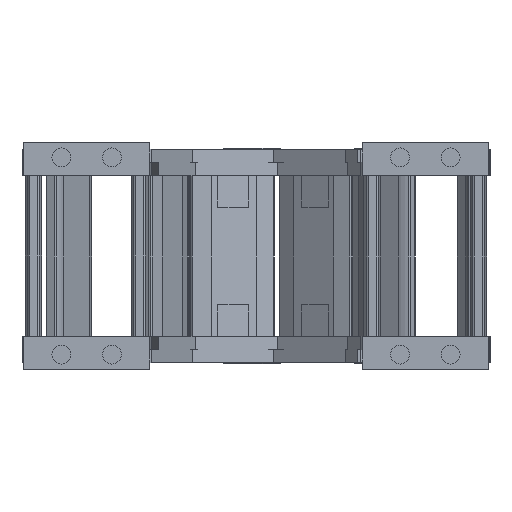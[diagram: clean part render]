
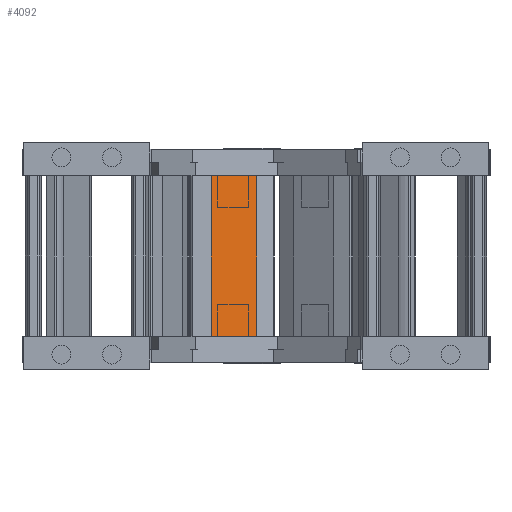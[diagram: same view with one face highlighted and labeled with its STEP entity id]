
A CAD part, left-side view. The second image highlights one B-rep face of the part: STEP entity #4092.
In plain terms, the highlighted planar face has unit normal (-0.962, -0.273, 0) as drawn and (0, -1, 0) by its records, which use the part's own axes.
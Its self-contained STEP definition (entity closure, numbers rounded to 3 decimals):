
#3646=DIRECTION('',(0.,0.,-1.));
#3647=VECTOR('',#3646,15.);
#3648=CARTESIAN_POINT('',(-13.5,0.,7.5));
#3649=LINE('',#3648,#3647);
#3733=DIRECTION('',(-1.,0.,0.));
#3734=VECTOR('',#3733,51.);
#3735=CARTESIAN_POINT('',(37.5,0.,-7.5));
#3736=LINE('',#3735,#3734);
#3740=DIRECTION('',(1.,0.,0.));
#3741=VECTOR('',#3740,51.);
#3742=CARTESIAN_POINT('',(-13.5,0.,7.5));
#3743=LINE('',#3742,#3741);
#3747=DIRECTION('',(0.,0.,-1.));
#3748=VECTOR('',#3747,15.);
#3749=CARTESIAN_POINT('',(37.5,0.,7.5));
#3750=LINE('',#3749,#3748);
#3865=CARTESIAN_POINT('',(37.5,0.,7.5));
#3866=CARTESIAN_POINT('',(37.5,0.,-7.5));
#3867=VERTEX_POINT('',#3865);
#3868=VERTEX_POINT('',#3866);
#3889=CARTESIAN_POINT('',(-13.5,0.,-7.5));
#3890=VERTEX_POINT('',#3889);
#3891=CARTESIAN_POINT('',(-13.5,0.,7.5));
#3892=VERTEX_POINT('',#3891);
#4079=CARTESIAN_POINT('',(6.,0.,0.));
#4080=DIRECTION('',(0.,1.,0.));
#4081=DIRECTION('',(1.,0.,0.));
#4082=AXIS2_PLACEMENT_3D('',#4079,#4080,#4081);
#4083=PLANE('',#4082);
#4084=ORIENTED_EDGE('',*,*,#4065,.T.);
#4085=ORIENTED_EDGE('',*,*,#3930,.F.);
#4087=ORIENTED_EDGE('',*,*,#4086,.T.);
#4089=ORIENTED_EDGE('',*,*,#4088,.T.);
#4090=EDGE_LOOP('',(#4084,#4085,#4087,#4089));
#4091=FACE_OUTER_BOUND('',#4090,.F.);
#4092=ADVANCED_FACE('',(#4091),#4083,.F.);
#3930=EDGE_CURVE('',#3892,#3890,#3649,.T.);
#4065=EDGE_CURVE('',#3868,#3890,#3736,.T.);
#4086=EDGE_CURVE('',#3892,#3867,#3743,.T.);
#4088=EDGE_CURVE('',#3867,#3868,#3750,.T.);
